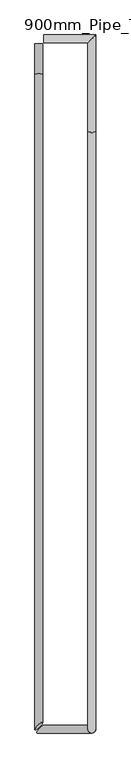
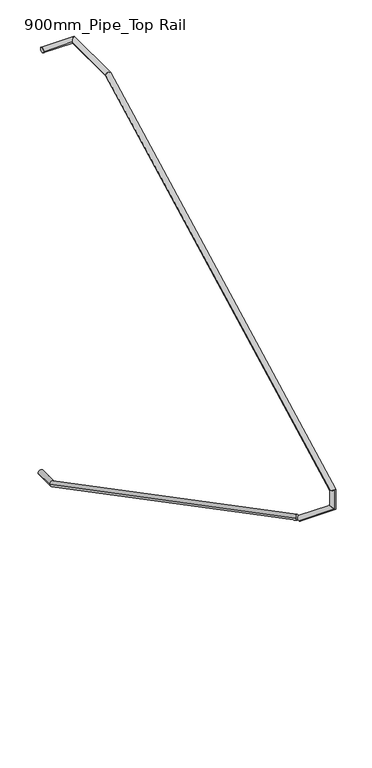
"""IFC4 building model written with IfcOpenShell, lengths in millimetres: railing geometry, 900mm_Pipe_Top Rail."""

from ifc_helpers import new_model, si_unit, frame, origin, place, context, project, spatial, circle_curve, ellipse_curve, source, transform, mapped, element, save
from ifc_brep_helpers import plane_surface, cylinder_surface, advanced_brep


def railing_900mm_pipe_top_rail_b0c08502(model_context):
    return source(origin(), model_context, "Body", "AdvancedBrep", [
        advanced_brep(
        [(-12235.3216429, 12414.8934136, -620.0), (-12195.3216429, 12414.8934136, -620.0), (-12235.3216429, 8937.8931179, 1116.5405753), (-12195.3216429, 8973.3421357, 1098.0104069), (-12235.3216429, 12259.9707402, -620.0), (-12195.3216429, 12259.9707402, -620.0)],
        [
            (0, 1, circle_curve(frame((-12215.3216429, 12414.8934136, -620.0), z_axis=(0.0, 1.0, 0.0), x_axis=(1.0, 0.0, 0.0)), 20.0)),
            (1, 0, circle_curve(frame((-12215.3216429, 12414.8934136, -620.0), z_axis=(0.0, 1.0, 0.0), x_axis=(1.0, 0.0, 0.0)), 20.0)),
            (2, 3, ellipse_curve(frame((-12215.3216429, 8955.6176268, 1107.2754911), z_axis=(0.7071067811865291, -0.6266560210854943, 0.3275701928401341), x_axis=(0.7071067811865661, 0.6266560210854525, -0.32757019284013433)), 28.2842712, 20.0)),
            (3, 2, ellipse_curve(frame((-12215.3216429, 8955.6176268, 1107.2754911), z_axis=(0.7071067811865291, -0.6266560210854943, 0.3275701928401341), x_axis=(0.7071067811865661, 0.6266560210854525, -0.32757019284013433)), 28.2842712, 20.0)),
            (0, 4),
            (4, 5, ellipse_curve(frame((-12215.3216429, 12259.9707402, -620.0), z_axis=(0.0, 0.9711399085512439, -0.2385105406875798), x_axis=(0.0, 0.23851054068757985, 0.9711399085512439)), 20.594355, 20.0)),
            (5, 1),
            (5, 4, ellipse_curve(frame((-12215.3216429, 12259.9707402, -620.0), z_axis=(0.0, 0.9711399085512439, -0.2385105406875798), x_axis=(0.0, 0.23851054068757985, 0.9711399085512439)), 20.594355, 20.0)),
            (4, 2),
            (3, 5),
        ],
        [
            plane_surface(frame((-12215.3216429, 12414.8934136, -600.0), z_axis=(0.0, 1.0, 0.0), x_axis=(0.0, 0.0, -1.0))),
            plane_surface(frame((-12215.3216429, 8964.882711, 1125.0), z_axis=(0.7071067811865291, -0.6266560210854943, 0.3275701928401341), x_axis=(0.707106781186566, 0.6266560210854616, -0.32757019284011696))),
            cylinder_surface(frame((-12215.3216429, 12414.8934136, -620.0), z_axis=(0.0, 1.0, 0.0), x_axis=(1.0, 0.0, 0.0)), 20.0),
            cylinder_surface(frame((-12215.3216429, 12255.6176268, -617.7245089), z_axis=(0.0, 0.8862254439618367, -0.46325420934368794), x_axis=(1.0, 0.0, 0.0)), 20.0),
        ],
        [
            (0, [[1, 2]]),
            (1, [[3, 4]]),
            (2, [[-1, 5, 6, 7]]),
            (2, [[-2, -7, 8, -5]]),
            (3, [[-6, 9, -4, 10]]),
            (3, [[-8, -10, -3, -9]]),
        ],
    ),
        advanced_brep(
        [(-12223.7810676, 8919.882711, 1105.0), (-12188.3320499, 8959.882711, 1105.0), (-11946.7871484, 8919.882711, 1105.0), (-11946.7871484, 8959.882711, 1105.0)],
        [
            (0, 1, ellipse_curve(frame((-12206.0565588, 8939.882711, 1105.0), z_axis=(-0.7071067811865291, 0.6266560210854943, -0.3275701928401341), x_axis=(-0.7071067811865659, -0.6266560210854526, 0.3275701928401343)), 28.2842712, 20.0)),
            (1, 0, ellipse_curve(frame((-12206.0565588, 8939.882711, 1105.0), z_axis=(-0.7071067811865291, 0.6266560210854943, -0.3275701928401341), x_axis=(-0.7071067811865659, -0.6266560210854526, 0.3275701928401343)), 28.2842712, 20.0)),
            (2, 3, ellipse_curve(frame((-11946.7871484, 8939.882711, 1105.0), z_axis=(0.7071067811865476, 0.0, 0.7071067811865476), x_axis=(-0.7071067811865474, 0.0, 0.7071067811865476)), 28.2842712, 20.0)),
            (3, 2, ellipse_curve(frame((-11946.7871484, 8939.882711, 1105.0), z_axis=(0.7071067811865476, 0.0, 0.7071067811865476), x_axis=(-0.7071067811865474, 0.0, 0.7071067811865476)), 28.2842712, 20.0)),
            (0, 2),
            (3, 1),
        ],
        [
            plane_surface(frame((-12215.3216429, 8939.882711, 1125.0), z_axis=(-0.7071067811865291, 0.6266560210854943, -0.3275701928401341), x_axis=(0.707106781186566, 0.6266560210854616, -0.32757019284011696))),
            plane_surface(frame((-11966.7871484, 8939.882711, 1125.0), z_axis=(0.7071067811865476, 0.0, 0.7071067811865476), x_axis=(0.7071067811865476, 0.0, -0.7071067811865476))),
            cylinder_surface(frame((-12215.3216429, 8939.882711, 1105.0), z_axis=(-1.0, 0.0, 0.0), x_axis=(0.0, 1.0, 0.0)), 20.0),
        ],
        [
            (0, [[1, 2]]),
            (1, [[3, 4]]),
            (2, [[-1, 5, -4, 6]]),
            (2, [[-2, -6, -3, -5]]),
        ],
    ),
        advanced_brep(
        [(-11946.7871484, 8919.882711, 1105.0), (-11946.7871484, 8959.882711, 1105.0), (-11946.7871484, 8919.882711, 1258.2954545), (-11946.7871484, 8959.882711, 1234.0693033)],
        [
            (0, 1, ellipse_curve(frame((-11946.7871484, 8939.882711, 1105.0), z_axis=(-0.7071067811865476, 0.0, -0.7071067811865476), x_axis=(0.7071067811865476, 0.0, -0.7071067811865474)), 28.2842712, 20.0)),
            (1, 0, ellipse_curve(frame((-11946.7871484, 8939.882711, 1105.0), z_axis=(-0.7071067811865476, 0.0, -0.7071067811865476), x_axis=(0.7071067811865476, 0.0, -0.7071067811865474)), 28.2842712, 20.0)),
            (2, 3, ellipse_curve(frame((-11946.7871484, 8939.882711, 1246.1823789), z_axis=(0.0, 0.5180471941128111, 0.8553520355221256), x_axis=(0.0, 0.8553520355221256, -0.5180471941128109)), 23.3821855, 20.0)),
            (3, 2, ellipse_curve(frame((-11946.7871484, 8939.882711, 1246.1823789), z_axis=(0.0, 0.5180471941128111, 0.8553520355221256), x_axis=(0.0, 0.8553520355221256, -0.5180471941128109)), 23.3821855, 20.0)),
            (0, 2),
            (3, 1),
        ],
        [
            plane_surface(frame((-11946.7871484, 8939.882711, 1105.0), z_axis=(-0.7071067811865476, 0.0, -0.7071067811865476), x_axis=(0.7071067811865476, 0.0, -0.7071067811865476))),
            plane_surface(frame((-11946.7871484, 8939.882711, 1246.1823789), z_axis=(0.0, 0.5180471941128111, 0.8553520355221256), x_axis=(1.0, 0.0, 0.0))),
            cylinder_surface(frame((-11946.7871484, 8939.882711, 1105.0), z_axis=(0.0, 0.0, -1.0), x_axis=(0.0, 1.0, 0.0)), 20.0),
        ],
        [
            (0, [[1, 2]]),
            (1, [[3, 4]]),
            (2, [[-1, 5, -4, 6]]),
            (2, [[-2, -6, -3, -5]]),
        ],
    ),
        advanced_brep(
        [(-11926.7871484, 8939.882711, 1246.1823789), (-11966.7871484, 8939.882711, 1246.1823789), (-12190.3216429, 12459.8934136, 2830.0), (-12190.3216429, 12419.8934136, 2830.0), (-11926.7871484, 11969.7946817, 2830.0), (-11966.7871484, 11969.7946817, 2830.0), (-11926.7871484, 12459.8934136, 2830.0), (-11966.7871484, 12419.8934136, 2830.0)],
        [
            (0, 1, ellipse_curve(frame((-11946.7871484, 8939.882711, 1246.1823789), z_axis=(0.0, -0.5180471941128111, -0.8553520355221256), x_axis=(0.0, -0.8553520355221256, 0.5180471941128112)), 23.3821855, 20.0)),
            (1, 0, ellipse_curve(frame((-11946.7871484, 8939.882711, 1246.1823789), z_axis=(0.0, -0.5180471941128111, -0.8553520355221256), x_axis=(0.0, -0.8553520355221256, 0.5180471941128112)), 23.3821855, 20.0)),
            (2, 3, circle_curve(frame((-12190.3216429, 12439.8934136, 2830.0), z_axis=(-1.0, 0.0, 0.0), x_axis=(0.0, -1.0, 0.0)), 20.0)),
            (3, 2, circle_curve(frame((-12190.3216429, 12439.8934136, 2830.0), z_axis=(-1.0, 0.0, 0.0), x_axis=(0.0, -1.0, 0.0)), 20.0)),
            (0, 4),
            (4, 5, ellipse_curve(frame((-11946.7871484, 11969.7946817, 2830.0), z_axis=(0.0, -0.9711399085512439, -0.2385105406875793), x_axis=(0.0, 0.23851054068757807, -0.9711399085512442)), 20.594355, 20.0)),
            (5, 1),
            (5, 4, ellipse_curve(frame((-11946.7871484, 11969.7946817, 2830.0), z_axis=(0.0, -0.9711399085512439, -0.2385105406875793), x_axis=(0.0, 0.23851054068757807, -0.9711399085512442)), 20.594355, 20.0)),
            (4, 6),
            (6, 7, ellipse_curve(frame((-11946.7871484, 12439.8934136, 2830.0), z_axis=(0.7071067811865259, -0.7071067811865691, 0.0), x_axis=(-0.7071067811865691, -0.7071067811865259, 0.0)), 28.2842712, 20.0)),
            (7, 5),
            (7, 6, ellipse_curve(frame((-11946.7871484, 12439.8934136, 2830.0), z_axis=(0.7071067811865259, -0.7071067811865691, 0.0), x_axis=(-0.7071067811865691, -0.7071067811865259, 0.0)), 28.2842712, 20.0)),
            (6, 2),
            (3, 7),
        ],
        [
            plane_surface(frame((-11946.7871484, 8919.882711, 1258.2954545), z_axis=(0.0, -0.5180471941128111, -0.8553520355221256), x_axis=(1.0, 0.0, 0.0))),
            plane_surface(frame((-12190.3216429, 12439.8934136, 2850.0), z_axis=(-1.0, 0.0, 0.0), x_axis=(0.0, -1.0, 0.0))),
            cylinder_surface(frame((-11946.7871484, 8929.1477952, 1240.5709457), z_axis=(0.0, -0.8862254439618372, -0.463254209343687), x_axis=(-1.0, 0.0, 0.0)), 20.0),
            cylinder_surface(frame((-11946.7871484, 11964.882711, 2830.0), z_axis=(0.0, -1.0, 0.0), x_axis=(-1.0, 0.0, 0.0)), 20.0),
            cylinder_surface(frame((-11946.7871484, 12439.8934136, 2830.0), z_axis=(1.0, 0.0, 0.0), x_axis=(0.0, -1.0, 0.0)), 20.0),
        ],
        [
            (0, [[1, 2]]),
            (1, [[3, 4]]),
            (2, [[-1, 5, 6, 7]]),
            (2, [[-2, -7, 8, -5]]),
            (3, [[-6, 9, 10, 11]]),
            (3, [[-8, -11, 12, -9]]),
            (4, [[-10, 13, -4, 14]]),
            (4, [[-12, -14, -3, -13]]),
        ],
    ),
    ])


if __name__ == "__main__":
    model = new_model("IFC4")
    model_context = context("Model", 3, world=origin())
    ifc_project = project(units=[si_unit("LENGTHUNIT", "METRE", prefix="MILLI")], contexts=[model_context])
    site = spatial("IfcSite", under=ifc_project)
    building = spatial("IfcBuilding", under=site)
    placement = place(None, origin())
    railing_900mm_pipe_top_rail_shape = railing_900mm_pipe_top_rail_b0c08502(model_context)
    element("IfcRailing", 1, ObjectType="900mm_Pipe_Top Rail", at=placement, inside=building, context=model_context, shape_type="MappedRepresentation", body=[
        mapped(railing_900mm_pipe_top_rail_shape, transform((0.0, 0.0, 0.0), x_axis=(1.0, 0.0, 0.0), y_axis=(0.0, 1.0, 0.0), z_axis=(0.0, 0.0, 1.0))),
    ])
    save(model, "model.ifc")
